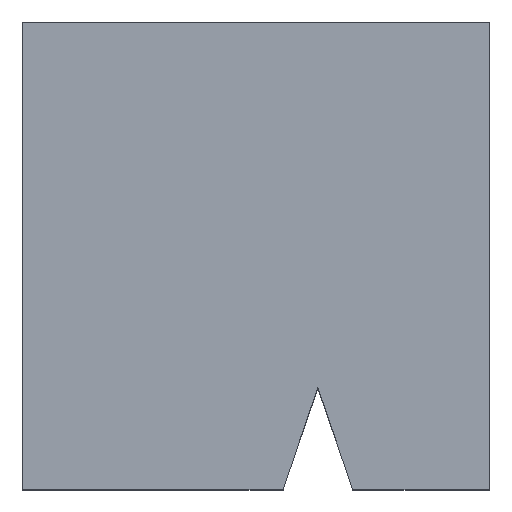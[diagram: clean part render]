
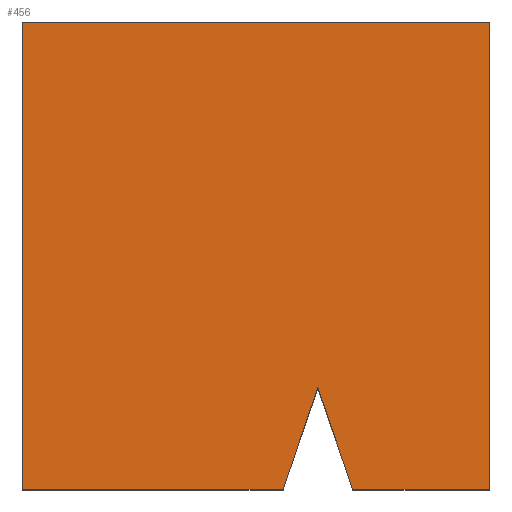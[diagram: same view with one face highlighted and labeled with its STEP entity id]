
A CAD part, top view. The second image highlights one B-rep face of the part: STEP entity #456.
In plain terms, the highlighted planar face has unit normal (0, 0, 1).
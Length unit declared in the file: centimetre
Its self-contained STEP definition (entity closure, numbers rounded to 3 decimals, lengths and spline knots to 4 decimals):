
#34 = DIRECTION ( 'NONE',  ( 0., 0., 1. ) ) ;
#51 = VECTOR ( 'NONE', #103, 100. ) ;
#61 = DIRECTION ( 'NONE',  ( 0., -1., 0. ) ) ;
#84 = EDGE_CURVE ( 'NONE', #589, #288, #112, .T. ) ;
#88 = VECTOR ( 'NONE', #94, 100. ) ;
#94 = DIRECTION ( 'NONE',  ( 0.324, 0.946, 0. ) ) ;
#103 = DIRECTION ( 'NONE',  ( 0.324, -0.946, 0. ) ) ;
#112 = LINE ( 'NONE', #356, #147 ) ;
#118 = VECTOR ( 'NONE', #606, 100. ) ;
#127 = LINE ( 'NONE', #617, #396 ) ;
#128 = CARTESIAN_POINT ( 'NONE',  ( 0., 0., 1000. ) ) ;
#139 = ORIENTED_EDGE ( 'NONE', *, *, #207, .T. ) ;
#142 = LINE ( 'NONE', #477, #88 ) ;
#147 = VECTOR ( 'NONE', #61, 100. ) ;
#150 = LINE ( 'NONE', #251, #51 ) ;
#151 = ORIENTED_EDGE ( 'NONE', *, *, #84, .T. ) ;
#155 = VERTEX_POINT ( 'NONE', #470 ) ;
#173 = CARTESIAN_POINT ( 'NONE',  ( 557.9801, 0., 1000. ) ) ;
#179 = AXIS2_PLACEMENT_3D ( 'NONE', #232, #34, #322 ) ;
#183 = VERTEX_POINT ( 'NONE', #173 ) ;
#205 = ORIENTED_EDGE ( 'NONE', *, *, #509, .T. ) ;
#207 = EDGE_CURVE ( 'NONE', #585, #155, #565, .T. ) ;
#217 = VERTEX_POINT ( 'NONE', #549 ) ;
#227 = EDGE_CURVE ( 'NONE', #588, #589, #304, .T. ) ;
#232 = CARTESIAN_POINT ( 'NONE',  ( 0., 0., 1000. ) ) ;
#239 = DIRECTION ( 'NONE',  ( 0., 1., 0. ) ) ;
#251 = CARTESIAN_POINT ( 'NONE',  ( 632.4201, 217.0506, 1000. ) ) ;
#260 = VECTOR ( 'NONE', #239, 100. ) ;
#265 = CARTESIAN_POINT ( 'NONE',  ( 0., 0., 1000. ) ) ;
#288 = VERTEX_POINT ( 'NONE', #265 ) ;
#292 = CARTESIAN_POINT ( 'NONE',  ( 0., 1000., 1000. ) ) ;
#297 = CARTESIAN_POINT ( 'NONE',  ( 706.8601, 0., 1000. ) ) ;
#304 = LINE ( 'NONE', #554, #118 ) ;
#319 = ORIENTED_EDGE ( 'NONE', *, *, #611, .T. ) ;
#322 = DIRECTION ( 'NONE',  ( 1., 0., 0. ) ) ;
#324 = DIRECTION ( 'NONE',  ( 1., 0., 0. ) ) ;
#356 = CARTESIAN_POINT ( 'NONE',  ( 0., 1000., 1000. ) ) ;
#385 = ORIENTED_EDGE ( 'NONE', *, *, #227, .T. ) ;
#386 = CARTESIAN_POINT ( 'NONE',  ( 1000., 1000., 1000. ) ) ;
#396 = VECTOR ( 'NONE', #564, 100. ) ;
#417 = EDGE_CURVE ( 'NONE', #288, #183, #127, .T. ) ;
#425 = LINE ( 'NONE', #386, #260 ) ;
#433 = FACE_OUTER_BOUND ( 'NONE', #622, .T. ) ;
#443 = EDGE_CURVE ( 'NONE', #183, #217, #142, .T. ) ;
#456 = ADVANCED_FACE ( 'NONE', ( #433 ), #572, .T. ) ;
#470 = CARTESIAN_POINT ( 'NONE',  ( 1000., 0., 1000. ) ) ;
#477 = CARTESIAN_POINT ( 'NONE',  ( 557.9801, 0., 1000. ) ) ;
#494 = CARTESIAN_POINT ( 'NONE',  ( 1000., 1000., 1000. ) ) ;
#509 = EDGE_CURVE ( 'NONE', #155, #588, #425, .T. ) ;
#514 = ORIENTED_EDGE ( 'NONE', *, *, #443, .T. ) ;
#526 = VECTOR ( 'NONE', #324, 100. ) ;
#549 = CARTESIAN_POINT ( 'NONE',  ( 632.4201, 217.0506, 1000. ) ) ;
#554 = CARTESIAN_POINT ( 'NONE',  ( 0., 1000., 1000. ) ) ;
#564 = DIRECTION ( 'NONE',  ( 1., 0., 0. ) ) ;
#565 = LINE ( 'NONE', #128, #526 ) ;
#572 = PLANE ( 'NONE',  #179 ) ;
#585 = VERTEX_POINT ( 'NONE', #297 ) ;
#588 = VERTEX_POINT ( 'NONE', #494 ) ;
#589 = VERTEX_POINT ( 'NONE', #292 ) ;
#606 = DIRECTION ( 'NONE',  ( -1., 0., 0. ) ) ;
#610 = ORIENTED_EDGE ( 'NONE', *, *, #417, .T. ) ;
#611 = EDGE_CURVE ( 'NONE', #217, #585, #150, .T. ) ;
#617 = CARTESIAN_POINT ( 'NONE',  ( 0., 0., 1000. ) ) ;
#622 = EDGE_LOOP ( 'NONE', ( #319, #139, #205, #385, #151, #610, #514 ) ) ;
